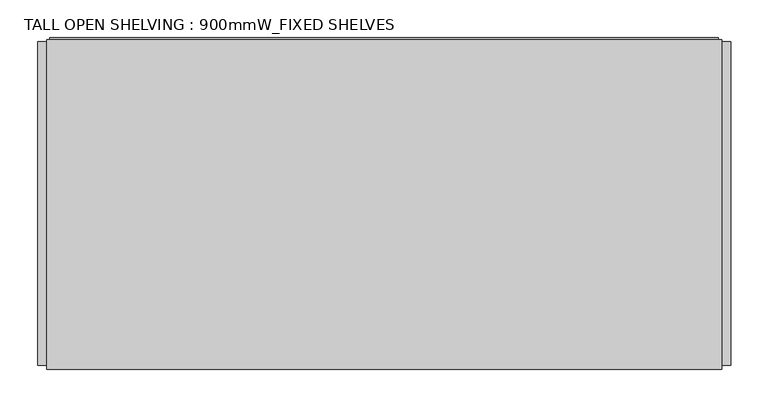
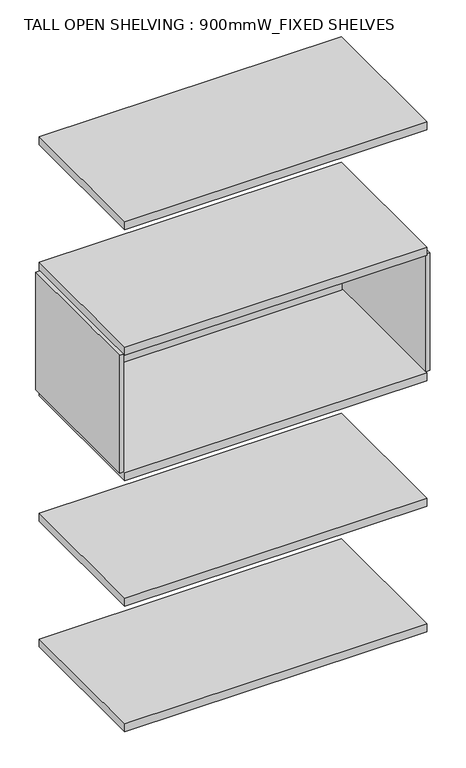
"""IFC4 building model written with IfcOpenShell, lengths in millimetres: furniture geometry, TALL OPEN SHELVING : 900mmW_FIXED SHELVES."""

from ifc_helpers import new_model, si_unit, frame, origin, place, context, project, spatial, polyline, outline, extrude, source, transform, mapped, element, save


def tall_open_shelving_900mmw_fixed_shelves_96b6e189(model_context):
    return source(origin(), model_context, "Body", "SweptSolid", [
        extrude(outline(polyline([(462.0, -214.7757931), (450.0, -214.7757931), (450.0, 217.1931665), (462.0, 217.1931665), (462.0, -214.7757931)])), frame((0.0, 0.0, 808.0), z_axis=(0.0, 0.0, 1.0), x_axis=(1.0, 0.0, 0.0)), (0.0, 0.0, 1.0), 370.0),
        extrude(outline(polyline([(450.0, 220.0), (450.0, -220.0), (-450.0, -220.0), (-450.0, 220.0), (450.0, 220.0)])), frame((0.0, 0.0, -7.0), z_axis=(0.0, 0.0, 1.0), x_axis=(1.0, 0.0, 0.0)), (0.0, 0.0, 1.0), 25.0),
        extrude(outline(polyline([(450.0, 220.0), (450.0, -220.0), (-450.0, -220.0), (-450.0, 220.0), (450.0, 220.0)])), frame((0.0, 0.0, 388.0), z_axis=(0.0, 0.0, 1.0), x_axis=(1.0, 0.0, 0.0)), (0.0, 0.0, 1.0), 25.0),
        extrude(outline(polyline([(450.0, 220.0), (450.0, -220.0), (-450.0, -220.0), (-450.0, 220.0), (450.0, 220.0)])), frame((0.0, 0.0, 783.0), z_axis=(0.0, 0.0, 1.0), x_axis=(1.0, 0.0, 0.0)), (0.0, 0.0, 1.0), 25.0),
        extrude(outline(polyline([(450.0, 220.0), (450.0, -220.0), (-450.0, -220.0), (-450.0, 220.0), (450.0, 220.0)])), frame((0.0, 0.0, 1178.0), z_axis=(0.0, 0.0, 1.0), x_axis=(1.0, 0.0, 0.0)), (0.0, 0.0, 1.0), 25.0),
        extrude(outline(polyline([(450.0, 220.0), (450.0, -220.0), (-450.0, -220.0), (-450.0, 220.0), (450.0, 220.0)])), frame((0.0, 0.0, 1573.0), z_axis=(0.0, 0.0, 1.0), x_axis=(1.0, 0.0, 0.0)), (0.0, 0.0, 1.0), 25.0),
        extrude(outline(polyline([(-450.0, -214.7757931), (-462.0, -214.7757931), (-462.0, 217.1931665), (-450.0, 217.1931665), (-450.0, -214.7757931)])), frame((0.0, 0.0, 808.0), z_axis=(0.0, 0.0, 1.0), x_axis=(1.0, 0.0, 0.0)), (0.0, 0.0, 1.0), 370.0),
        extrude(outline(polyline([(445.4939356, 222.7282814), (445.4939356, 210.7282814), (-445.4939356, 210.7282814), (-445.4939356, 222.7282814), (445.4939356, 222.7282814)])), frame((0.0, 0.0, 808.0), z_axis=(0.0, 0.0, 1.0), x_axis=(1.0, 0.0, 0.0)), (0.0, 0.0, 1.0), 370.0),
    ])


if __name__ == "__main__":
    model = new_model("IFC4")
    model_context = context("Model", 3, world=origin())
    ifc_project = project(units=[si_unit("LENGTHUNIT", "METRE", prefix="MILLI")], contexts=[model_context])
    site = spatial("IfcSite", under=ifc_project)
    building = spatial("IfcBuilding", under=site)
    placement = place(None, origin())
    tall_open_shelving_900mmw_fixed_shelves_shape = tall_open_shelving_900mmw_fixed_shelves_96b6e189(model_context)
    element("IfcFurniture", 1, ObjectType="TALL OPEN SHELVING : 900mmW_FIXED SHELVES", at=placement, inside=building, context=model_context, shape_type="MappedRepresentation", body=[
        mapped(tall_open_shelving_900mmw_fixed_shelves_shape, transform((0.0, 0.0, 0.0), x_axis=(1.0, 0.0, 0.0), y_axis=(0.0, 1.0, 0.0), z_axis=(0.0, 0.0, 1.0))),
    ])
    save(model, "model.ifc")
